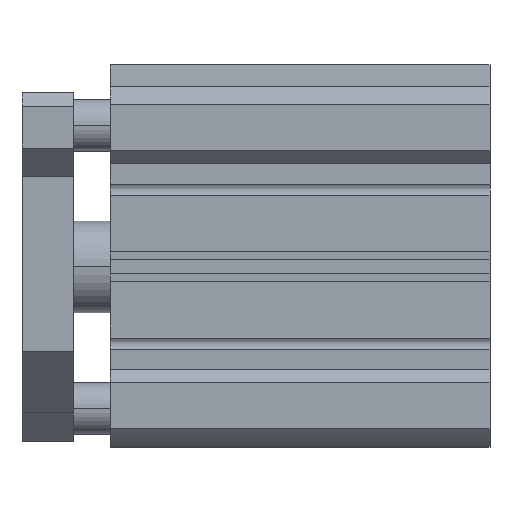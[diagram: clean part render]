
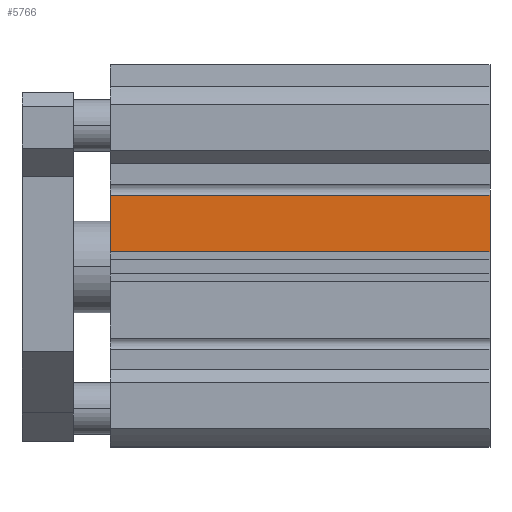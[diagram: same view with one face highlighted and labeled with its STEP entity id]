
A CAD part, top view. The second image highlights one B-rep face of the part: STEP entity #5766.
In plain terms, the highlighted planar face has unit normal (0, 0, 1).
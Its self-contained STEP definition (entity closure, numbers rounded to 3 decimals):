
#14 = CARTESIAN_POINT ( 'NONE',  ( 103.5, 19.5, 45.5 ) ) ;
#75 = DIRECTION ( 'NONE',  ( 0., -1., 0. ) ) ;
#106 = LINE ( 'NONE', #1021, #1290 ) ;
#404 = EDGE_CURVE ( 'NONE', #5165, #2650, #4586, .T. ) ;
#462 = ORIENTED_EDGE ( 'NONE', *, *, #4405, .T. ) ;
#560 = EDGE_CURVE ( 'NONE', #2650, #4663, #2842, .T. ) ;
#569 = ORIENTED_EDGE ( 'NONE', *, *, #404, .F. ) ;
#1021 = CARTESIAN_POINT ( 'NONE',  ( 103.5, 19.5, 45.5 ) ) ;
#1290 = VECTOR ( 'NONE', #5814, 1000. ) ;
#1334 = CARTESIAN_POINT ( 'NONE',  ( 0., 19.5, 45.5 ) ) ;
#1337 = CARTESIAN_POINT ( 'NONE',  ( 103.5, 4., 45.5 ) ) ;
#1492 = DIRECTION ( 'NONE',  ( -1., 0., 0. ) ) ;
#1631 = CARTESIAN_POINT ( 'NONE',  ( 103.5, 19.5, 45.5 ) ) ;
#1915 = CARTESIAN_POINT ( 'NONE',  ( 0., 4., 45.5 ) ) ;
#2157 = EDGE_LOOP ( 'NONE', ( #5443, #2605, #569, #462 ) ) ;
#2323 = VERTEX_POINT ( 'NONE', #5874 ) ;
#2605 = ORIENTED_EDGE ( 'NONE', *, *, #560, .F. ) ;
#2650 = VERTEX_POINT ( 'NONE', #1337 ) ;
#2842 = LINE ( 'NONE', #2878, #4402 ) ;
#2878 = CARTESIAN_POINT ( 'NONE',  ( 103.5, 4., 45.5 ) ) ;
#3199 = CARTESIAN_POINT ( 'NONE',  ( 103.5, 19.5, 45.5 ) ) ;
#3280 = PLANE ( 'NONE',  #4843 ) ;
#3403 = EDGE_CURVE ( 'NONE', #2323, #4663, #5555, .T. ) ;
#3632 = VECTOR ( 'NONE', #3695, 1000. ) ;
#3695 = DIRECTION ( 'NONE',  ( 0., -1., 0. ) ) ;
#4286 = DIRECTION ( 'NONE',  ( 0., 0., -1. ) ) ;
#4402 = VECTOR ( 'NONE', #1492, 1000. ) ;
#4405 = EDGE_CURVE ( 'NONE', #5165, #2323, #106, .T. ) ;
#4586 = LINE ( 'NONE', #3199, #3632 ) ;
#4621 = DIRECTION ( 'NONE',  ( 0., -1., 0. ) ) ;
#4663 = VERTEX_POINT ( 'NONE', #1915 ) ;
#4720 = FACE_OUTER_BOUND ( 'NONE', #2157, .T. ) ;
#4843 = AXIS2_PLACEMENT_3D ( 'NONE', #14, #4286, #75 ) ;
#5147 = VECTOR ( 'NONE', #4621, 1000. ) ;
#5165 = VERTEX_POINT ( 'NONE', #1631 ) ;
#5443 = ORIENTED_EDGE ( 'NONE', *, *, #3403, .T. ) ;
#5555 = LINE ( 'NONE', #1334, #5147 ) ;
#5766 = ADVANCED_FACE ( 'NONE', ( #4720 ), #3280, .F. ) ;
#5814 = DIRECTION ( 'NONE',  ( -1., 0., 0. ) ) ;
#5874 = CARTESIAN_POINT ( 'NONE',  ( 0., 19.5, 45.5 ) ) ;
